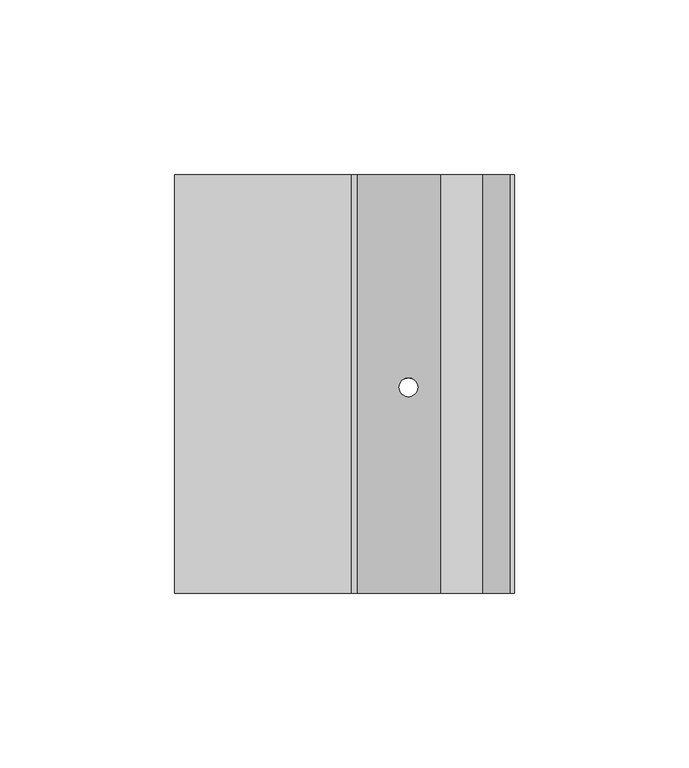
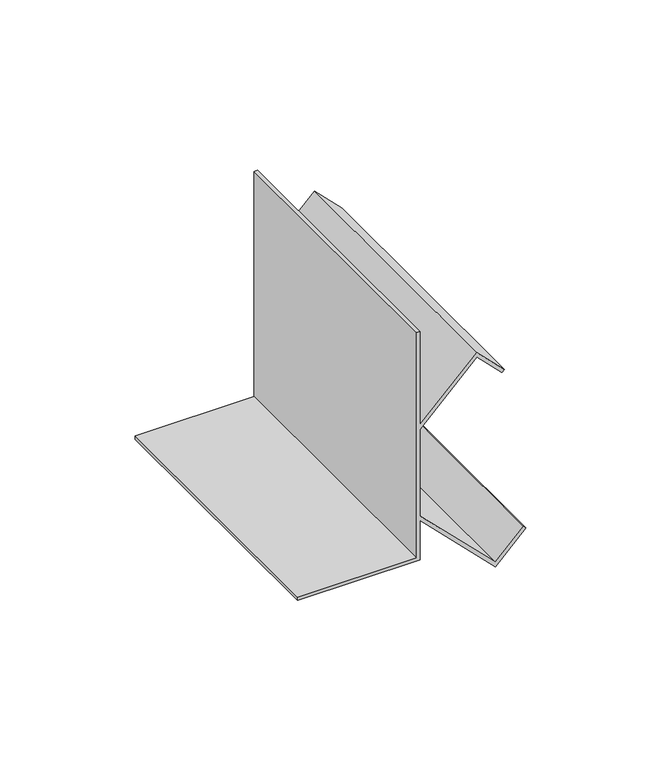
"""IFC4 building model written with IfcOpenShell, lengths in millimetres: proxy geometry, Mechanical Fittings & Accessories37 : Mechanical Fittings & Accessories."""

from ifc_helpers import new_model, si_unit, frame, origin, place, context, project, spatial, polyline, ellipse_curve, source, transform, mapped, element, save
from ifc_brep_helpers import plane_surface, revolved_surface, advanced_brep


def generic_models_a93aa4b5(model_context):
    return source(origin(), model_context, "Body", "AdvancedBrep", [
        advanced_brep(
        [(-14670.9639562, 8294.4963986, 4114.8), (-14721.7639562, 8294.4963986, 4114.8), (-14721.7639562, 8294.4963986, 4113.3117188), (-14669.475675, 8294.4963986, 4113.3117188), (-14669.475675, 8294.4963986, 4131.1383509), (-14637.365914, 8294.4963986, 4099.0285899), (-14624.3869427, 8294.4963986, 4112.0075612), (-14625.4393164, 8294.4963986, 4113.059935), (-14637.365914, 8294.4963986, 4101.1333374), (-14669.475675, 8294.4963986, 4133.2430984), (-14669.475675, 8294.4963986, 4172.2761118), (-14645.303414, 8294.4963986, 4196.4483729), (-14634.5674414, 8294.4963986, 4185.7124003), (-14633.5150677, 8294.4963986, 4186.7647741), (-14645.303414, 8294.4963986, 4198.5531204), (-14669.475675, 8294.4963986, 4174.3808594), (-14669.475675, 8294.4963986, 4216.4), (-14670.9639562, 8294.4963986, 4216.4), (-14670.9639562, 8414.4645457, 4114.8), (-14670.9639562, 8414.4645457, 4216.4), (-14669.475675, 8414.4645457, 4216.4), (-14669.475675, 8414.4645457, 4174.3808594), (-14645.303414, 8414.4645457, 4198.5531204), (-14633.5150677, 8414.4645457, 4186.7647741), (-14634.5674414, 8414.4645457, 4185.7124003), (-14645.303414, 8414.4645457, 4196.4483729), (-14669.475675, 8414.4645457, 4172.2761118), (-14669.475675, 8414.4645457, 4133.2430984), (-14637.365914, 8414.4645457, 4101.1333374), (-14625.4393164, 8414.4645457, 4113.059935), (-14624.3869427, 8414.4645457, 4112.0075612), (-14637.365914, 8414.4645457, 4099.0285899), (-14669.475675, 8414.4645457, 4131.1383509), (-14669.475675, 8414.4645457, 4113.3117188), (-14721.7639562, 8414.4645457, 4113.3117188), (-14721.7639562, 8414.4645457, 4114.8), (-14657.3617646, 8353.5191481, 4119.0244406), (-14652.0223978, 8353.5191481, 4113.6850737), (-14652.0223978, 8353.5191481, 4115.7898213), (-14657.3617646, 8353.5191481, 4121.1291881), (-14657.3617646, 8353.5191481, 4184.3900222), (-14652.0223978, 8353.5191481, 4189.729389), (-14652.0223978, 8353.5191481, 4191.8341365), (-14657.3617646, 8353.5191481, 4186.4947697)],
        [
            (0, 1),
            (1, 2),
            (2, 3),
            (3, 4),
            (4, 5),
            (5, 6),
            (6, 7),
            (7, 8),
            (8, 9),
            (9, 10),
            (10, 11),
            (11, 12),
            (12, 13),
            (13, 14),
            (14, 15),
            (15, 16),
            (16, 17),
            (17, 0),
            (18, 19),
            (19, 20),
            (20, 21),
            (21, 22),
            (22, 23),
            (23, 24),
            (24, 25),
            (25, 26),
            (26, 27),
            (27, 28),
            (28, 29),
            (29, 30),
            (30, 31),
            (31, 32),
            (32, 33),
            (33, 34),
            (34, 35),
            (35, 18),
            (0, 18),
            (35, 1),
            (34, 2),
            (33, 3),
            (32, 4),
            (31, 5),
            (36, 37, ellipse_curve(frame((-14654.6920812, 8353.5191481, 4116.3547571), z_axis=(0.7071067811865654, 0.0, 0.7071067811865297), x_axis=(-0.7071067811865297, 0.0, 0.7071067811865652)), 3.7755025, 2.6696834)),
            (37, 36, ellipse_curve(frame((-14654.6920812, 8353.5191481, 4116.3547571), z_axis=(0.7071067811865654, 0.0, 0.7071067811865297), x_axis=(-0.7071067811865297, 0.0, 0.7071067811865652)), 3.7755025, 2.6696834)),
            (30, 6),
            (29, 7),
            (28, 8),
            (27, 9),
            (38, 39, ellipse_curve(frame((-14654.6920812, 8353.5191481, 4118.4595047), z_axis=(-0.7071067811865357, 0.0, -0.7071067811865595), x_axis=(-0.7071067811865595, 0.0, 0.7071067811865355)), 3.7755025, 2.6696834)),
            (39, 38, ellipse_curve(frame((-14654.6920812, 8353.5191481, 4118.4595047), z_axis=(-0.7071067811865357, 0.0, -0.7071067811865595), x_axis=(-0.7071067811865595, 0.0, 0.7071067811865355)), 3.7755025, 2.6696834)),
            (26, 10),
            (25, 11),
            (40, 41, ellipse_curve(frame((-14654.6920812, 8353.5191481, 4187.0597056), z_axis=(-0.7071067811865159, 0.0, 0.7071067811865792), x_axis=(0.7071067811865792, 0.0, 0.7071067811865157)), 3.7755025, 2.6696834)),
            (41, 40, ellipse_curve(frame((-14654.6920812, 8353.5191481, 4187.0597056), z_axis=(-0.7071067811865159, 0.0, 0.7071067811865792), x_axis=(0.7071067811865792, 0.0, 0.7071067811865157)), 3.7755025, 2.6696834)),
            (24, 12),
            (23, 13),
            (22, 14),
            (21, 15),
            (42, 43, ellipse_curve(frame((-14654.6920812, 8353.5191481, 4189.1644531), z_axis=(0.7071067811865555, 0.0, -0.7071067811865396), x_axis=(0.7071067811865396, 0.0, 0.7071067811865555)), 3.7755025, 2.6696834)),
            (43, 42, ellipse_curve(frame((-14654.6920812, 8353.5191481, 4189.1644531), z_axis=(0.7071067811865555, 0.0, -0.7071067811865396), x_axis=(0.7071067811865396, 0.0, 0.7071067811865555)), 3.7755025, 2.6696834)),
            (20, 16),
            (19, 17),
            (36, 39),
            (38, 37),
            (40, 43),
            (42, 41),
        ],
        [
            plane_surface(frame((-14721.7639562, 8294.4963986, 4114.8), z_axis=(0.0, -1.0, 0.0), x_axis=(-1.0, 0.0, 0.0))),
            plane_surface(frame((-14721.7639562, 8414.4645457, 4114.8), z_axis=(0.0, 1.0, 0.0), x_axis=(1.0, 0.0, 0.0))),
            plane_surface(frame((-14670.9639562, 8294.4963986, 4114.8), z_axis=(0.0, 0.0, 1.0), x_axis=(0.0, 1.0, 0.0))),
            plane_surface(frame((-14721.7639562, 8294.4963986, 4114.8), z_axis=(-1.0, 0.0, 0.0), x_axis=(0.0, 1.0, 0.0))),
            plane_surface(frame((-14721.7639562, 8294.4963986, 4113.3117188), z_axis=(0.0, 0.0, -1.0), x_axis=(0.0, 1.0, 0.0))),
            plane_surface(frame((-14669.475675, 8294.4963986, 4113.3117188), z_axis=(1.0, 0.0, 0.0), x_axis=(0.0, 1.0, 0.0))),
            plane_surface(frame((-14669.475675, 8294.4963986, 4131.1383509), z_axis=(-0.7071067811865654, 0.0, -0.7071067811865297), x_axis=(0.0, 1.0, 0.0))),
            plane_surface(frame((-14637.365914, 8294.4963986, 4099.0285899), z_axis=(0.7071067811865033, 0.0, -0.7071067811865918), x_axis=(0.0, 1.0, 0.0))),
            plane_surface(frame((-14624.3869427, 8294.4963986, 4112.0075612), z_axis=(0.7071067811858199, 0.0, 0.7071067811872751), x_axis=(0.0, 1.0, 0.0))),
            plane_surface(frame((-14625.4393164, 8294.4963986, 4113.059935), z_axis=(-0.7071067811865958, 0.0, 0.7071067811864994), x_axis=(0.0, 1.0, 0.0))),
            plane_surface(frame((-14637.365914, 8294.4963986, 4101.1333374), z_axis=(0.7071067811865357, 0.0, 0.7071067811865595), x_axis=(0.0, 1.0, 0.0))),
            plane_surface(frame((-14669.475675, 8294.4963986, 4133.2430984), z_axis=(1.0, 0.0, 0.0), x_axis=(0.0, 1.0, 0.0))),
            plane_surface(frame((-14669.475675, 8294.4963986, 4172.2761118), z_axis=(0.7071067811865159, 0.0, -0.7071067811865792), x_axis=(0.0, 1.0, 0.0))),
            plane_surface(frame((-14645.303414, 8294.4963986, 4196.4483729), z_axis=(-0.7071067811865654, 0.0, -0.7071067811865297), x_axis=(0.0, 1.0, 0.0))),
            plane_surface(frame((-14634.5674414, 8294.4963986, 4185.7124003), z_axis=(0.7071067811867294, 0.0, -0.7071067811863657), x_axis=(0.0, 1.0, 0.0))),
            plane_surface(frame((-14633.5150677, 8294.4963986, 4186.7647741), z_axis=(0.7071067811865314, 0.0, 0.7071067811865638), x_axis=(0.0, 1.0, 0.0))),
            plane_surface(frame((-14645.303414, 8294.4963986, 4198.5531204), z_axis=(-0.7071067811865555, 0.0, 0.7071067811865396), x_axis=(0.0, 1.0, 0.0))),
            plane_surface(frame((-14669.475675, 8294.4963986, 4174.3808594), z_axis=(1.0, 0.0, 0.0), x_axis=(0.0, 1.0, 0.0))),
            plane_surface(frame((-14669.475675, 8294.4963986, 4216.4), z_axis=(0.0, 0.0, 1.0), x_axis=(0.0, 1.0, 0.0))),
            plane_surface(frame((-14670.9639562, 8294.4963986, 4216.4), z_axis=(-1.0, 0.0, 0.0), x_axis=(0.0, 1.0, 0.0))),
            revolved_surface(polyline([(-14652.022397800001, 8353.5191481, 4121.129188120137), (-14652.022397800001, 8353.5191481, 4113.685073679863)]), (-14654.6920812, 8353.5191481, 4097.2034211), (0.0, 0.0, 1.0)),
            revolved_surface(polyline([(-14652.022397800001, 8353.5191481, 4191.834136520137), (-14652.022397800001, 8353.5191481, 4184.390022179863)]), (-14654.6920812, 8353.5191481, 4097.2034211), (0.0, 0.0, 1.0)),
        ],
        [
            (0, [[1, 2, 3, 4, 5, 6, 7, 8, 9, 10, 11, 12, 13, 14, 15, 16, 17, 18]]),
            (1, [[19, 20, 21, 22, 23, 24, 25, 26, 27, 28, 29, 30, 31, 32, 33, 34, 35, 36]]),
            (2, [[-1, 37, -36, 38]]),
            (3, [[-2, -38, -35, 39]]),
            (4, [[-3, -39, -34, 40]]),
            (5, [[-4, -40, -33, 41]]),
            (6, [[-5, -41, -32, 42], [43, 44]]),
            (7, [[-6, -42, -31, 45]]),
            (8, [[-7, -45, -30, 46]]),
            (9, [[-8, -46, -29, 47]]),
            (10, [[-9, -47, -28, 48], [49, 50]]),
            (11, [[-10, -48, -27, 51]]),
            (12, [[-11, -51, -26, 52], [53, 54]]),
            (13, [[-12, -52, -25, 55]]),
            (14, [[-13, -55, -24, 56]]),
            (15, [[-14, -56, -23, 57]]),
            (16, [[-15, -57, -22, 58], [59, 60]]),
            (17, [[-16, -58, -21, 61]]),
            (18, [[-17, -61, -20, 62]]),
            (19, [[-18, -62, -19, -37]]),
            (20, [[63, -49, 64, -43]]),
            (21, [[65, -59, 66, -53]]),
            (20, [[-63, -44, -64, -50]]),
            (21, [[-65, -54, -66, -60]]),
        ],
    ),
    ])


if __name__ == "__main__":
    model = new_model("IFC4")
    model_context = context("Model", 3, world=origin())
    ifc_project = project(units=[si_unit("LENGTHUNIT", "METRE", prefix="MILLI")], contexts=[model_context])
    site = spatial("IfcSite", under=ifc_project)
    building = spatial("IfcBuilding", under=site)
    placement = place(None, origin())
    generic_models_shape = generic_models_a93aa4b5(model_context)
    element("IfcBuildingElementProxy", 1, Name="Mechanical Fittings & Accessories37 : Mechanical Fittings & Accessories", ObjectType="Mechanical Fittings & Accessories37 : Mechanical Fittings & Accessories", at=placement, inside=building, context=model_context, shape_type="MappedRepresentation", body=[
        mapped(generic_models_shape, transform((0.0, 0.0, 0.0), x_axis=(1.0, 0.0, 0.0), y_axis=(0.0, 1.0, 0.0), z_axis=(0.0, 0.0, 1.0))),
    ])
    save(model, "model.ifc")
